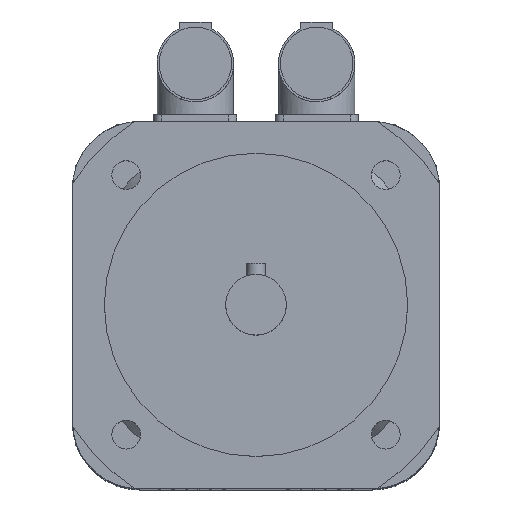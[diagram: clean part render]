
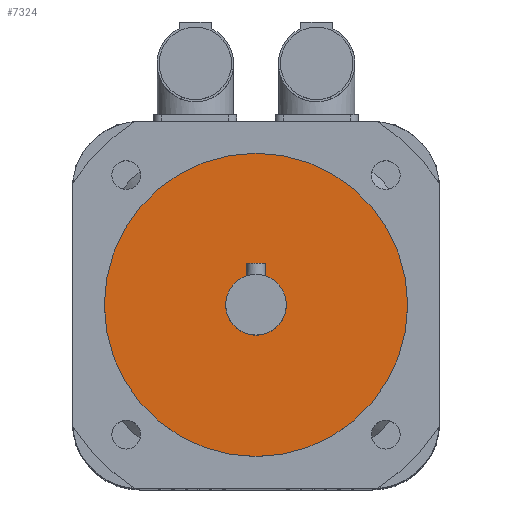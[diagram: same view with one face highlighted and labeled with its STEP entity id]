
A CAD part, top view. The second image highlights one B-rep face of the part: STEP entity #7324.
In plain terms, the highlighted planar face has unit normal (0, 0, 1).
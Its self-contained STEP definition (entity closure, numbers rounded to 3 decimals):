
#60=FACE_BOUND('',#993,.T.);
#151=CIRCLE('',#7810,9.5);
#152=CIRCLE('',#7812,47.5);
#524=FACE_OUTER_BOUND('',#992,.T.);
#992=EDGE_LOOP('',(#5019));
#993=EDGE_LOOP('',(#5020));
#3155=VERTEX_POINT('',#11148);
#3156=VERTEX_POINT('',#11151);
#3882=EDGE_CURVE('',#3155,#3155,#151,.T.);
#3883=EDGE_CURVE('',#3156,#3156,#152,.T.);
#5019=ORIENTED_EDGE('',*,*,#3883,.F.);
#5020=ORIENTED_EDGE('',*,*,#3882,.T.);
#6956=PLANE('',#7811);
#7324=ADVANCED_FACE('',(#524,#60),#6956,.T.);
#7810=AXIS2_PLACEMENT_3D('',#11149,#8756,#8757);
#7811=AXIS2_PLACEMENT_3D('',#11150,#8758,#8759);
#7812=AXIS2_PLACEMENT_3D('',#11152,#8760,#8761);
#8756=DIRECTION('center_axis',(0.,0.,-1.));
#8757=DIRECTION('ref_axis',(1.,0.,0.));
#8758=DIRECTION('center_axis',(0.,0.,1.));
#8759=DIRECTION('ref_axis',(1.,0.,0.));
#8760=DIRECTION('center_axis',(0.,0.,-1.));
#8761=DIRECTION('ref_axis',(1.,0.,0.));
#11148=CARTESIAN_POINT('',(0.,9.5,238.));
#11149=CARTESIAN_POINT('Origin',(0.,0.,238.));
#11150=CARTESIAN_POINT('Origin',(0.,47.5,238.));
#11151=CARTESIAN_POINT('',(0.,47.5,238.));
#11152=CARTESIAN_POINT('Origin',(0.,0.,238.));
